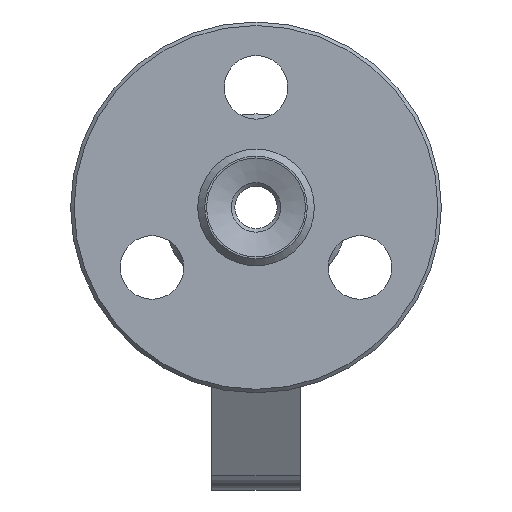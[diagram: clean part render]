
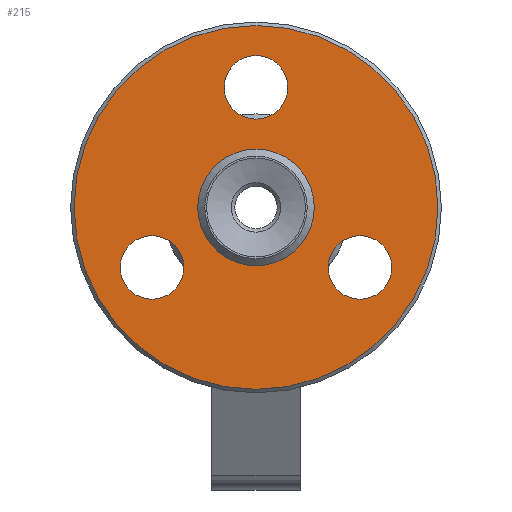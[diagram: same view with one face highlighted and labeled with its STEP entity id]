
A CAD part, left-side view. The second image highlights one B-rep face of the part: STEP entity #215.
In plain terms, the highlighted planar face has unit normal (-1, 0, 0).
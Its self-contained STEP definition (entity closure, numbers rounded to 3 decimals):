
#215=ADVANCED_FACE('',(#1713,#1715,#1717,#1719,#1721),#1723,.T.);
#1713=FACE_BOUND('',#1714,.T.);
#1714=EDGE_LOOP('',(#2610));
#1715=FACE_BOUND('',#1716,.T.);
#1716=EDGE_LOOP('',(#2611));
#1717=FACE_BOUND('',#1718,.T.);
#1718=EDGE_LOOP('',(#2612));
#1719=FACE_BOUND('',#1720,.T.);
#1720=EDGE_LOOP('',(#2613));
#1721=FACE_OUTER_BOUND('',#1722,.T.);
#1722=EDGE_LOOP('',(#2614));
#1723=PLANE('',#1724);
#1724=AXIS2_PLACEMENT_3D('',#1725,#1726,#1727);
#1725=CARTESIAN_POINT('',(-69.5,0.,0.));
#1726=DIRECTION('',(-1.,0.,0.));
#1727=DIRECTION('',(0.,0.,1.));
#2610=ORIENTED_EDGE('',*,*,#3543,.T.);
#2611=ORIENTED_EDGE('',*,*,#3544,.T.);
#2612=ORIENTED_EDGE('',*,*,#3545,.T.);
#2613=ORIENTED_EDGE('',*,*,#3523,.F.);
#2614=ORIENTED_EDGE('',*,*,#3546,.F.);
#3523=EDGE_CURVE('',#4001,#4001,#4002,.F.);
#3543=EDGE_CURVE('',#4028,#4028,#4029,.F.);
#3544=EDGE_CURVE('',#4030,#4030,#4031,.F.);
#3545=EDGE_CURVE('',#4032,#4032,#4033,.F.);
#3546=EDGE_CURVE('',#4034,#4034,#4035,.T.);
#4001=VERTEX_POINT('',#6133);
#4002=CIRCLE('',#6134,16.5);
#4028=VERTEX_POINT('',#6203);
#4029=CIRCLE('',#6204,9.);
#4030=VERTEX_POINT('',#6208);
#4031=CIRCLE('',#6209,9.);
#4032=VERTEX_POINT('',#6213);
#4033=CIRCLE('',#6214,9.);
#4034=VERTEX_POINT('',#6218);
#4035=CIRCLE('',#6219,51.5);
#6133=CARTESIAN_POINT('',(-69.5,0.,16.5));
#6134=AXIS2_PLACEMENT_3D('',#6135,#6136,#6137);
#6135=CARTESIAN_POINT('',(-69.5,0.,0.));
#6136=DIRECTION('',(1.,-0.,0.));
#6137=DIRECTION('',(0.,0.,1.));
#6203=CARTESIAN_POINT('',(-69.5,9.,34.));
#6204=AXIS2_PLACEMENT_3D('',#6205,#6206,#6207);
#6205=CARTESIAN_POINT('',(-69.5,0.,34.));
#6206=DIRECTION('',(-1.,0.,0.));
#6207=DIRECTION('',(0.,1.,0.));
#6208=CARTESIAN_POINT('',(-69.5,24.945,-24.794));
#6209=AXIS2_PLACEMENT_3D('',#6210,#6211,#6212);
#6210=CARTESIAN_POINT('',(-69.5,29.445,-17.));
#6211=DIRECTION('',(-1.,0.,0.));
#6212=DIRECTION('',(0.,-0.5,-0.866));
#6213=CARTESIAN_POINT('',(-69.5,-33.945,-9.206));
#6214=AXIS2_PLACEMENT_3D('',#6215,#6216,#6217);
#6215=CARTESIAN_POINT('',(-69.5,-29.445,-17.));
#6216=DIRECTION('',(-1.,0.,0.));
#6217=DIRECTION('',(0.,-0.5,0.866));
#6218=CARTESIAN_POINT('',(-69.5,0.,51.5));
#6219=AXIS2_PLACEMENT_3D('',#6220,#6221,#6222);
#6220=CARTESIAN_POINT('',(-69.5,0.,0.));
#6221=DIRECTION('',(1.,-0.,0.));
#6222=DIRECTION('',(0.,0.,1.));
